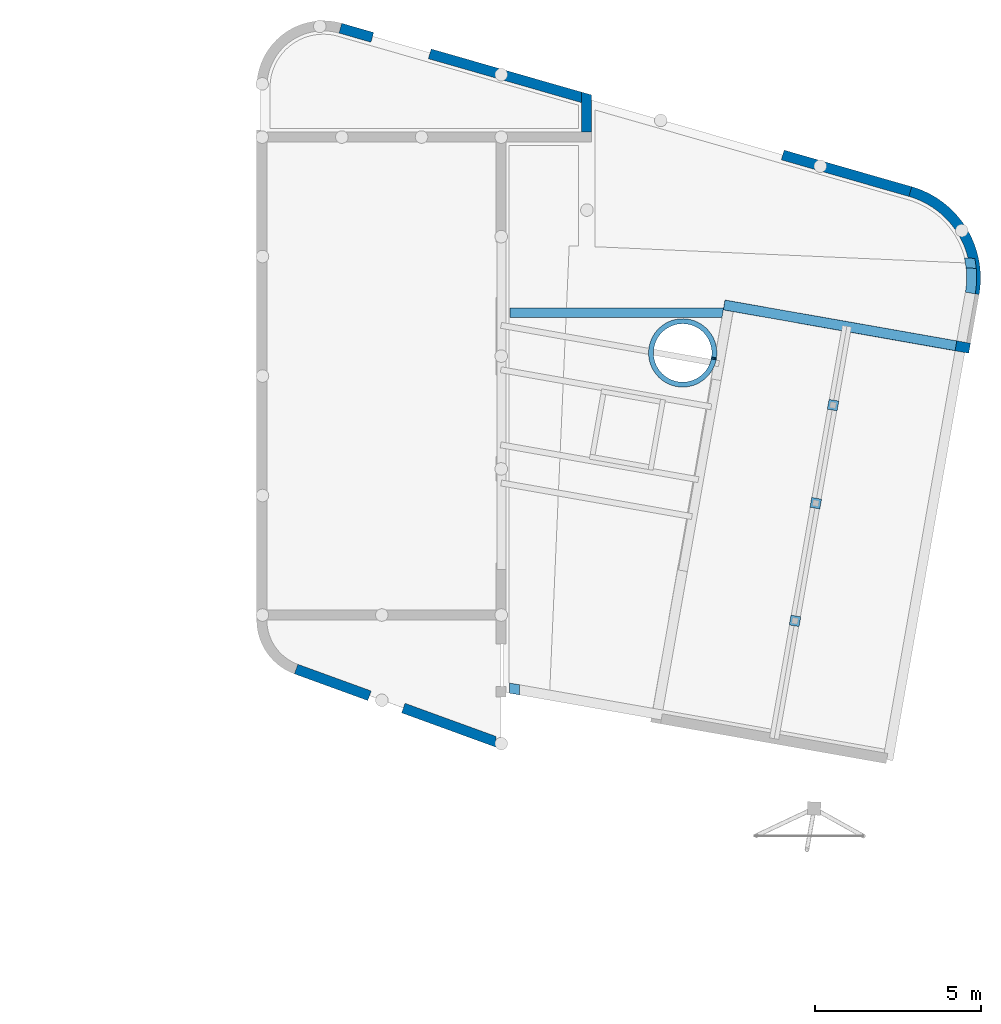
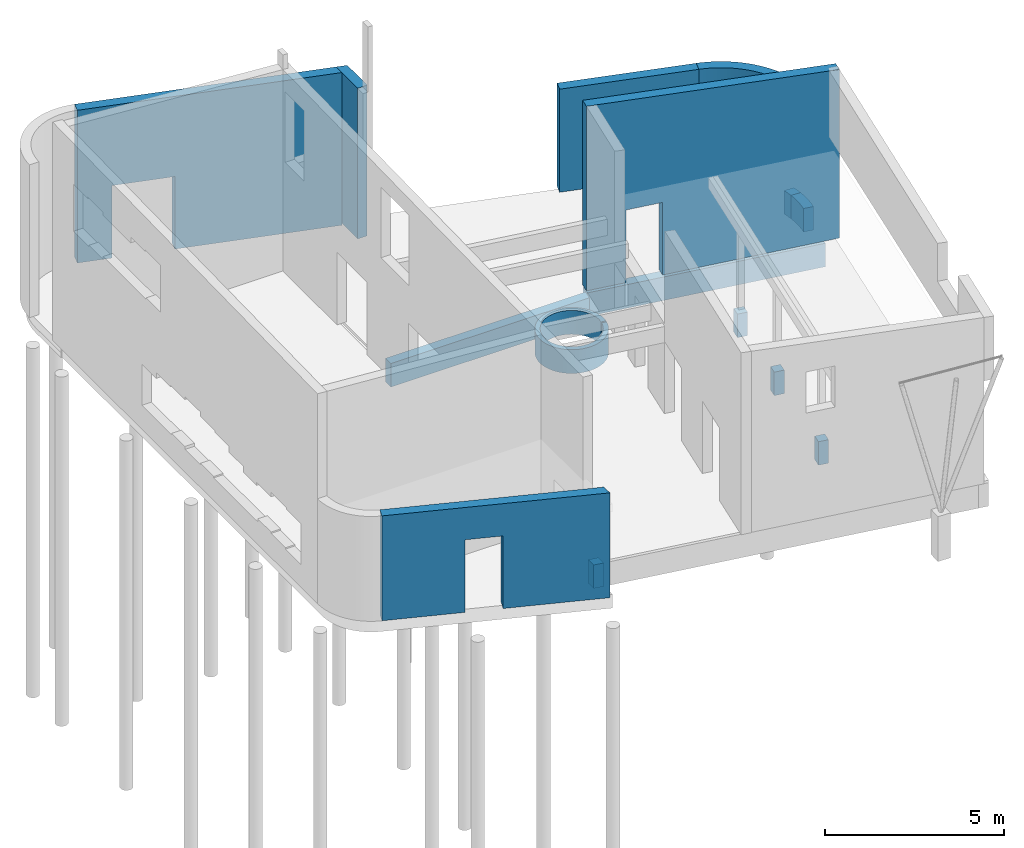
# One storey, part 3 of 3: 16 walls, 3 openings.
"""IFC2X3 building model written with IfcOpenShell, lengths in millimetres."""

from ifc_helpers import new_model, entity, si_unit, converted_unit, derived_unit, direction, frame, frame_2d, origin, place, context, subcontext, project, spatial, polyline, circle_curve, parameter, trimmed, segment, composite_curve, rectangle, outline, extrude, clip, bounded_halfspace, faceted_brep, material, layer, layer_set, layer_usage, type_object, element, save


model = new_model("IFC2X3")

# Units and contexts
model_context = context("Model", 3, precision=0.01, world=origin(), true_north=direction((6.12303176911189e-17, 1.0)))
context_of_model = context(None, 3, precision=0.01, world=origin(), true_north=direction((6.12303176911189e-17, 1.0)))
body_context = subcontext(model_context, "Body", "Model", "MODEL_VIEW")
ifc_project = project(units=[si_unit("LENGTHUNIT", "METRE", prefix="MILLI"), si_unit("AREAUNIT", "SQUARE_METRE"), si_unit("VOLUMEUNIT", "CUBIC_METRE"), converted_unit("PLANEANGLEUNIT", "DEGREE", entity("IfcRatioMeasure", 0.0174532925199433), si_unit("PLANEANGLEUNIT", "RADIAN"), dimensions=[0, 0, 0, 0, 0, 0, 0]), si_unit("MASSUNIT", "GRAM", prefix="KILO"), derived_unit("MASSDENSITYUNIT", [(si_unit("MASSUNIT", "GRAM", prefix="KILO"), 1), (si_unit("LENGTHUNIT", "METRE"), -3)]), derived_unit("MOMENTOFINERTIAUNIT", [(si_unit("LENGTHUNIT", "METRE"), 4)]), si_unit("TIMEUNIT", "SECOND"), si_unit("FREQUENCYUNIT", "HERTZ"), si_unit("THERMODYNAMICTEMPERATUREUNIT", "DEGREE_CELSIUS"), derived_unit("THERMALTRANSMITTANCEUNIT", [(si_unit("MASSUNIT", "GRAM", prefix="KILO"), 1), (si_unit("THERMODYNAMICTEMPERATUREUNIT", "KELVIN"), -1), (si_unit("TIMEUNIT", "SECOND"), -3)]), derived_unit("VOLUMETRICFLOWRATEUNIT", [(si_unit("LENGTHUNIT", "METRE"), 3), (si_unit("TIMEUNIT", "SECOND"), -1)]), si_unit("ELECTRICCURRENTUNIT", "AMPERE"), si_unit("ELECTRICVOLTAGEUNIT", "VOLT"), si_unit("POWERUNIT", "WATT"), si_unit("FORCEUNIT", "NEWTON", prefix="KILO"), si_unit("ILLUMINANCEUNIT", "LUX"), si_unit("LUMINOUSFLUXUNIT", "LUMEN"), si_unit("LUMINOUSINTENSITYUNIT", "CANDELA"), derived_unit("USERDEFINED", [(si_unit("MASSUNIT", "GRAM", prefix="KILO"), -1), (si_unit("LENGTHUNIT", "METRE"), -2), (si_unit("TIMEUNIT", "SECOND"), 3), (si_unit("LUMINOUSFLUXUNIT", "LUMEN"), 1)]), derived_unit("LINEARVELOCITYUNIT", [(si_unit("LENGTHUNIT", "METRE"), 1), (si_unit("TIMEUNIT", "SECOND"), -1)]), si_unit("PRESSUREUNIT", "PASCAL"), derived_unit("USERDEFINED", [(si_unit("LENGTHUNIT", "METRE"), -2), (si_unit("MASSUNIT", "GRAM", prefix="KILO"), 1), (si_unit("TIMEUNIT", "SECOND"), -2)]), derived_unit("LINEARFORCEUNIT", [(si_unit("MASSUNIT", "GRAM", prefix="KILO"), 1), (si_unit("LENGTHUNIT", "METRE"), 1), (si_unit("TIMEUNIT", "SECOND"), -2), (si_unit("LENGTHUNIT", "METRE"), -1)]), derived_unit("PLANARFORCEUNIT", [(si_unit("MASSUNIT", "GRAM", prefix="KILO"), 1), (si_unit("LENGTHUNIT", "METRE"), 1), (si_unit("TIMEUNIT", "SECOND"), -2), (si_unit("LENGTHUNIT", "METRE"), -2)])], contexts=[model_context, context_of_model])

# Site, building, storey
site_placement = place(None, origin())
site = spatial("IfcSite", under=ifc_project, at=site_placement, Name="Default", CompositionType="ELEMENT")
building_placement = place(site_placement, origin())
building = spatial("IfcBuilding", under=site, at=building_placement, Name="IFc", CompositionType="ELEMENT")
storey_placement = place(building_placement, frame((0.0, 0.0, -70.0)))
storey = spatial("IfcBuildingStorey", under=building, at=storey_placement, Name="00 begane grond b.k. ruwe vloer", CompositionType="ELEMENT", Elevation=-70.0)

# Walls
ifc_material_1 = material(Name="IMd_underlayment")
ifc_layer_1 = layer(ifc_material_1, 18.0)
ifc_material_2 = material(Name="IMd_hout")
ifc_layer_2 = layer(ifc_material_2, 270.0)
ifc_layer_3 = layer(ifc_material_1, 18.0)
ifc_layer_set_1 = layer_set([ifc_layer_1, ifc_layer_2, ifc_layer_3], Name="Basic Wall:NLRS_28_WA HSB_d=271")
ifc_layer_usage_1 = layer_usage(ifc_layer_set_1, "AXIS2", "NEGATIVE", 153.0)
wall_type_1 = type_object("IfcWallType", Name="Basic Wall:NLRS_28_WA HSB_d=271", PredefinedType="STANDARD", material=ifc_layer_set_1)
wall_1_placement = place(storey_placement, frame((19759.6696056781, 24550.0, 70.0), z_axis=(0.0, 0.0, 1.0), x_axis=(0.0, 1.0, 0.0)))
element("IfcWallStandardCase", 1, at=wall_1_placement, inside=storey, type_object=wall_type_1, material=ifc_layer_usage_1, Name="Basic Wall:NLRS_28_WA HSB_d=271", ObjectType="Basic Wall:NLRS_28_WA HSB_d=271", context=body_context, shape_type="SweptSolid", body=[
    extrude(outline(polyline([(0.473272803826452, -556.489996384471), (318.816078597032, -556.489996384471), (-12.5768006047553, 598.680518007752), (-306.712550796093, 514.299474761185), (0.473272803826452, -556.489996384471)])), frame((578.936558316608, 0.0, 0.0), z_axis=(0.0, 0.0, 1.0), x_axis=(0.275755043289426, 0.96122794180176, 0.0)), (0.0, 0.0, 1.0), 5129.99999999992),
])
wall_2_placement = place(storey_placement, frame((17077.3165004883, 6159.10750160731, 0.0), z_axis=(0.0, 0.0, 1.0), x_axis=(-0.939722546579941, 0.341937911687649, 0.0)))
element("IfcWall", 2, at=wall_2_placement, inside=storey, type_object=wall_type_1, Name="Basic Wall:NLRS_28_WA HSB_d=271", ObjectType="Basic Wall:NLRS_28_WA HSB_d=271", context=body_context, shape_type="Brep", body=[
    faceted_brep([(111.344567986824, -153.0, 3570.0), (111.344567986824, -153.0, 0.0), (3022.73798114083, -153.0, 0.0), (3022.73798114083, -153.0, 2470.0), (4106.73797699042, -153.0, 2470.0), (4106.73797699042, -153.0, 0.0), (6457.98108461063, -153.0, 0.0), (6457.98108461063, -153.0, 3570.0), (0.0, 153.0, 0.0), (0.0, 153.0, 60.0), (0.0, 153.0, 3560.0), (0.0, 153.0, 3570.0), (6457.98108461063, 153.0, 3570.0), (6457.98108461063, 153.0, 0.0), (4106.73797699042, 153.0, 0.0), (4106.73797699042, 153.0, 2470.0), (3022.73798114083, 153.0, 2470.0), (3022.73798114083, 153.0, 0.0)], [[[0, 1, 2, 3, 4, 5, 6, 7]], [[8, 9, 10, 11, 12, 13, 14, 15, 16, 17]], [[0, 11, 10, 9, 8, 1]], [[6, 5, 14, 13]], [[7, 6, 13, 12]], [[0, 7, 12, 11]], [[2, 1, 8, 17]], [[3, 2, 17, 16]], [[4, 3, 16, 15]], [[5, 4, 15, 14]]]),
])
wall_3_placement = place(storey_placement, frame((19648.8601273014, 25580.4905030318, 0.0), z_axis=(0.0, 0.0, 1.0), x_axis=(-0.961227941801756, 0.27575504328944, 0.0)))
element("IfcWall", 3, at=wall_3_placement, inside=storey, type_object=wall_type_1, Name="Basic Wall:NLRS_28_WA HSB_d=271", ObjectType="Basic Wall:NLRS_28_WA HSB_d=271", context=body_context, shape_type="Brep", body=[
    faceted_brep([(87.7846341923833, -153.0, 0.0), (4802.19558161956, -153.0, 0.0), (4802.19558161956, -153.0, 2470.0), (6602.19558161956, -153.0, 2470.0), (6602.19558161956, -153.0, 0.0), (7603.77169760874, -153.0, 0.0), (7603.77169760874, -153.0, 5200.0), (87.7846341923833, -153.0, 5200.0), (87.7846341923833, -153.0, 70.0), (0.0, 153.0, 0.0), (0.0, 153.0, 5200.0), (7603.77169760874, 153.0, 5200.0), (7603.77169760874, 153.0, 0.0), (6602.19558161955, 153.0, 0.0), (6602.19558161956, 153.0, 2470.0), (4802.19558161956, 153.0, 2470.0), (4802.19558161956, 153.0, 0.0)], [[[0, 1, 2, 3, 4, 5, 6, 7, 8]], [[9, 10, 11, 12, 13, 14, 15, 16]], [[1, 0, 9, 16]], [[6, 5, 12, 11]], [[7, 6, 11, 10]], [[2, 1, 16, 15]], [[3, 2, 15, 14]], [[4, 3, 14, 13]], [[5, 4, 13, 12]], [[0, 8, 7, 10, 9]]]),
])
ifc_layer_usage_2 = layer_usage(ifc_layer_set_1, "AXIS2", "NEGATIVE", 153.0)
wall_4_placement = place(storey_placement, frame((29512.2596546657, 22754.004053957, 60.0), z_axis=(0.0, 0.0, 1.0), x_axis=(-0.961261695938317, 0.275637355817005, 0.0)))
element("IfcWallStandardCase", 4, at=wall_4_placement, inside=storey, type_object=wall_type_1, material=ifc_layer_usage_2, Name="Basic Wall:NLRS_28_WA HSB_d=271", ObjectType="Basic Wall:NLRS_28_WA HSB_d=271", context=body_context, shape_type="SweptSolid", body=[
    extrude(rectangle(XDim=3999.90326540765, YDim=306.000000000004, at=frame_2d((1999.95163270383, 3.12638803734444e-13), x_axis=(-1.0, 0.0))), origin(), (0.0, 0.0, 1.0), 3509.99999999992),
])

# Wall, opening
ifc_layer_usage_3 = layer_usage(ifc_layer_set_1, "AXIS2", "NEGATIVE", 153.0)
wall_5_placement = place(storey_placement, frame((31298.7644464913, 18034.5306784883, 60.0), z_axis=(0.0, 0.0, 1.0), x_axis=(-0.984807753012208, 0.173648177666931, 0.0)))
wall_5 = element("IfcWallStandardCase", 5, at=wall_5_placement, inside=storey, type_object=wall_type_1, material=ifc_layer_usage_3, Name="Basic Wall:NLRS_28_WA HSB_d=271", ObjectType="Basic Wall:NLRS_28_WA HSB_d=271", context=body_context, shape_type="Clipping", body=[
    clip(extrude(rectangle(XDim=7511.58881505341, YDim=306.0, at=frame_2d((3755.7944075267, 0.0), x_axis=(-1.0, 0.0))), origin(), (0.0, 0.0, 1.0), 6284.69975053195), bounded_halfspace(frame((0.0101037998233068, -153.0, 5738.6161692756), z_axis=(0.0725054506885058, -0.00762051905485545, -0.997338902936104), x_axis=(0.991875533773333, -0.104248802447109, 0.0729048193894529)), True, frame((0.0101037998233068, -153.0, 5738.6161692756)), polyline([(0.0, 0.0), (7511.57871125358, 0.0), (7511.57871125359, 306.0), (7205.57871125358, 306.0), (305.989896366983, 306.0), (-0.0101037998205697, 306.0), (0.0, 0.0)]))),
])
opening_1_placement = place(wall_5_placement, origin())
element("IfcOpeningElement", 6, at=opening_1_placement, cuts=wall_5, Name="Basic Wall:NLRS_28_WA HSB_d=271", ObjectType="Opening", context=body_context, shape_type="SweptSolid", body=[
    extrude(rectangle(XDim=2470.00000000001, YDim=1083.99999999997, at=frame_2d((0.0, 0.0), x_axis=(0.0, 1.0))), frame((5795.27387890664, 153.0, 1235.0), z_axis=(0.0, -1.0, 0.0), x_axis=(1.0, 0.0, 0.0)), (0.0, 0.0, 1.0), 306.0),
])

# Walls
ifc_layer_usage_4 = layer_usage(ifc_layer_set_1, "AXIS2", "POSITIVE", -153.0)
wall_6_placement = place(storey_placement, frame((29512.2596848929, 22754.004159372, 60.0)))
element("IfcWallStandardCase", 7, at=wall_6_placement, inside=storey, type_object=wall_type_1, material=ifc_layer_usage_4, Name="Basic Wall:NLRS_28_WA HSB_d=271", ObjectType="Basic Wall:NLRS_28_WA HSB_d=271", context=body_context, shape_type="SweptSolid", body=[
    extrude(outline(composite_curve([segment(trimmed(circle_curve(frame_2d((-746.701596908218, -2604.05793429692), x_axis=(1.0, 0.0)), 2862.0), [parameter(350.001891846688)], [parameter(74.0000000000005)], True, "PARAMETER"), True, "CONTINUOUS"), segment(polyline([(42.1725154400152, 147.073039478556), (-42.1725154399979, -147.073039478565)]), True, "CONTINUOUS"), segment(trimmed(circle_curve(frame_2d((-746.701596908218, -2604.05793429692), x_axis=(1.0, 0.0)), 2556.0), [parameter(350.001891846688)], [parameter(74.0000000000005)], True, "PARAMETER"), False, "CONTINUOUS"), segment(polyline([(1770.48167370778, -3047.81956189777), (2071.83460047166, -3100.9459539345)]), True, "CONTINUOUS")], self_intersect=False)), origin(), (0.0, 0.0, 1.0), 3509.99999999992),
])
ifc_material_3 = material(Name="IMd_beton_prefab")
ifc_layer_4 = layer(ifc_material_3, 300.0)
ifc_layer_set_2 = layer_set([ifc_layer_4], Name="Basic Wall:NLRS_16_WA Funderingsbalk_beton_prefab_300x800")
ifc_layer_usage_5 = layer_usage(ifc_layer_set_2, "AXIS2", "NEGATIVE", 150.0)
wall_type_2 = type_object("IfcWallType", Name="Basic Wall:NLRS_16_WA Funderingsbalk_beton_prefab_300x800", PredefinedType="STANDARD", material=ifc_layer_set_2)
wall_7_placement = place(storey_placement, frame((23904.2418366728, 19338.3474189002, -820.0), z_axis=(0.0, 0.0, 1.0), x_axis=(0.984850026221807, -0.173408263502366, 0.0)))
element("IfcWallStandardCase", 8, at=wall_7_placement, inside=storey, type_object=wall_type_2, material=ifc_layer_usage_5, Name="Basic Wall:NLRS_16_WA Funderingsbalk_beton_prefab_300x800", ObjectType="Basic Wall:NLRS_16_WA Funderingsbalk_beton_prefab_300x800", context=body_context, shape_type="SweptSolid", body=[
    extrude(outline(polyline([(7090.55211074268, -150.0), (7090.61528805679, 150.0), (0.0, 150.0), (0.0, -86.0273430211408), (0.0, -150.0), (300.0, -150.0), (7090.55211074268, -150.0)])), origin(), (0.0, 0.0, 1.0), 800.0),
])
ifc_layer_usage_6 = layer_usage(ifc_layer_set_2, "AXIS2", "POSITIVE", -150.0)
wall_8_placement = place(storey_placement, frame((31344.3780423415, 20469.9798954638, -820.0)))
element("IfcWallStandardCase", 9, at=wall_8_placement, inside=storey, type_object=wall_type_2, material=ifc_layer_usage_6, Name="Basic Wall:NLRS_16_WA Funderingsbalk_beton_prefab_300x800", ObjectType="Basic Wall:NLRS_16_WA Funderingsbalk_beton_prefab_300x800", context=body_context, shape_type="SweptSolid", body=[
    extrude(outline(composite_curve([segment(trimmed(circle_curve(frame_2d((-2692.23049711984, -300.958386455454), x_axis=(1.0, 0.0)), 2859.0), [parameter(350.001891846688)], [parameter(5.44015134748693)], True, "PARAMETER"), True, "CONTINUOUS"), segment(polyline([(153.891913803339, -29.908165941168), (-149.07145609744, -16.6643624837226)]), True, "CONTINUOUS"), segment(trimmed(circle_curve(frame_2d((-2692.23049711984, -300.958386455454), x_axis=(1.0, 0.0)), 2559.0), [parameter(350.001891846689)], [parameter(6.37848459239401)], True, "PARAMETER"), False, "CONTINUOUS"), segment(polyline([(-172.09278604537, -745.24086103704), (123.351259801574, -797.325559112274)]), True, "CONTINUOUS")], self_intersect=False)), origin(), (0.0, 0.0, 1.0), 800.0),
])
ifc_layer_usage_7 = layer_usage(ifc_layer_set_2, "AXIS2", "NEGATIVE", 150.0)
wall_9_placement = place(storey_placement, frame((27158.8635610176, 16172.1722400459, -820.0), z_axis=(0.0, 0.0, 1.0), x_axis=(0.173408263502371, 0.984850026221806, 0.0)))
element("IfcWallStandardCase", 10, at=wall_9_placement, inside=storey, type_object=wall_type_2, material=ifc_layer_usage_7, Name="Basic Wall:NLRS_16_WA Funderingsbalk_beton_prefab_300x800", ObjectType="Basic Wall:NLRS_16_WA Funderingsbalk_beton_prefab_300x800", context=body_context, shape_type="SweptSolid", body=[
    extrude(rectangle(XDim=299.999999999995, YDim=299.999999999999, at=frame_2d((149.999999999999, 8.81072992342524e-13), x_axis=(-1.0, 0.0))), origin(), (0.0, 0.0, 1.0), 800.0),
])
ifc_layer_usage_8 = layer_usage(ifc_layer_set_2, "AXIS2", "NEGATIVE", 150.0)
wall_10_placement = place(storey_placement, frame((26637.9190280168, 13217.7489810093, -820.0), z_axis=(0.0, 0.0, 1.0), x_axis=(0.173408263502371, 0.984850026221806, 0.0)))
element("IfcWallStandardCase", 11, at=wall_10_placement, inside=storey, type_object=wall_type_2, material=ifc_layer_usage_8, Name="Basic Wall:NLRS_16_WA Funderingsbalk_beton_prefab_300x800", ObjectType="Basic Wall:NLRS_16_WA Funderingsbalk_beton_prefab_300x800", context=body_context, shape_type="SweptSolid", body=[
    extrude(rectangle(XDim=300.000000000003, YDim=300.0, at=frame_2d((150.000000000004, 1.63424829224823e-12), x_axis=(-1.0, 0.0))), origin(), (0.0, 0.0, 1.0), 800.0),
])
ifc_layer_usage_9 = layer_usage(ifc_layer_set_2, "AXIS2", "NEGATIVE", 150.0)
wall_11_placement = place(storey_placement, frame((26012.7855884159, 9672.44107016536, -820.0), z_axis=(0.0, 0.0, 1.0), x_axis=(0.173408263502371, 0.984850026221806, 0.0)))
element("IfcWallStandardCase", 12, at=wall_11_placement, inside=storey, type_object=wall_type_2, material=ifc_layer_usage_9, Name="Basic Wall:NLRS_16_WA Funderingsbalk_beton_prefab_300x800", ObjectType="Basic Wall:NLRS_16_WA Funderingsbalk_beton_prefab_300x800", context=body_context, shape_type="SweptSolid", body=[
    extrude(rectangle(XDim=299.999999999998, YDim=299.999999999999, at=frame_2d((150.000000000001, 1.16529008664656e-12), x_axis=(-1.0, 0.0))), origin(), (0.0, 0.0, 1.0), 800.0),
])

# Wall, opening
ifc_layer_usage_10 = layer_usage(ifc_layer_set_2, "AXIS2", "NEGATIVE", 150.0)
wall_12_placement = place(storey_placement, frame((31139.364782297, 20605.9042360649, -820.0), z_axis=(0.0, 0.0, 1.0), x_axis=(0.999045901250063, -0.0436724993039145, 0.0)))
wall_12 = element("IfcWallStandardCase", 13, at=wall_12_placement, inside=storey, type_object=wall_type_2, material=ifc_layer_usage_10, Name="Basic Wall:NLRS_16_WA Funderingsbalk_beton_prefab_300x800", ObjectType="Basic Wall:NLRS_16_WA Funderingsbalk_beton_prefab_300x800", context=body_context, shape_type="SweptSolid", body=[
    extrude(outline(composite_curve([segment(polyline([(307.452557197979, 150.0), (0.0, 150.0)]), True, "CONTINUOUS"), segment(polyline([(0.0, 150.0), (62.5111492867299, -150.0)]), True, "CONTINUOUS"), segment(polyline([(62.5111492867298, -150.0), (365.805062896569, -150.0)]), True, "CONTINUOUS"), segment(trimmed(circle_curve(frame_2d((-2465.76442562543, -545.08889084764), x_axis=(0.999045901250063, 0.0436724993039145)), 2859.0), [parameter(5.44015134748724)], [parameter(11.5678947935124)], True, "PARAMETER"), True, "CONTINUOUS")], self_intersect=False)), origin(), (0.0, 0.0, 1.0), 800.0),
])
opening_2_placement = place(wall_12_placement, origin())
element("IfcOpeningElement", 14, at=opening_2_placement, cuts=wall_12, Name="Basic Wall:NLRS_16_WA Funderingsbalk_beton_prefab_300x800", ObjectType="Opening", context=body_context, shape_type="SweptSolid", body=[
    extrude(rectangle(XDim=1000.0, YDim=160.0, at=frame_2d((0.0, -3.48165940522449e-13), x_axis=(1.0, 0.0))), frame((8.85226316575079, -284.661057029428, 470.0), z_axis=(-0.203989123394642, 0.978973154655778, 0.0), x_axis=(0.0, 0.0, 1.0)), (0.0, 0.0, 1.0), 454.55791906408),
])

ifc_layer_usage_11 = layer_usage(ifc_layer_set_2, "AXIS2", "NEGATIVE", 150.0)
wall_13_placement = place(storey_placement, frame((17590.4846991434, 7589.21340909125, -820.0), z_axis=(0.0, 0.0, 1.0), x_axis=(0.0, 1.0, 0.0)))
wall_13 = element("IfcWallStandardCase", 15, at=wall_13_placement, inside=storey, type_object=wall_type_2, material=ifc_layer_usage_11, Name="Basic Wall:NLRS_16_WA Funderingsbalk_beton_prefab_300x800", ObjectType="Basic Wall:NLRS_16_WA Funderingsbalk_beton_prefab_300x800", context=body_context, shape_type="SweptSolid", body=[
    extrude(outline(polyline([(357.526077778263, 150.0), (52.8980942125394, 150.0), (0.0, -150.0), (304.627983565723, -150.0), (357.526077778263, 150.0)])), origin(), (0.0, 0.0, 1.0), 800.0),
])
opening_3_placement = place(wall_13_placement, origin())
element("IfcOpeningElement", 16, at=opening_3_placement, cuts=wall_13, Name="Basic Wall:NLRS_16_WA Funderingsbalk_beton_prefab_300x800", ObjectType="Opening", context=body_context, shape_type="SweptSolid", body=[
    extrude(rectangle(XDim=1000.0, YDim=140.0, at=frame_2d((0.0, 7.17648163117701e-13), x_axis=(1.0, 0.0))), frame((-112.122195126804, -382.76263297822, 470.0), z_axis=(0.173648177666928, 0.984807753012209, 0.0), x_axis=(0.0, 0.0, 1.0)), (0.0, 0.0, 1.0), 590.0),
])

# Walls
ifc_layer_usage_12 = layer_usage(ifc_layer_set_2, "AXIS2", "NEGATIVE", 150.0)
wall_14_placement = place(storey_placement, frame((17445.0, 19103.62338787, -820.0)))
element("IfcWallStandardCase", 17, at=wall_14_placement, inside=storey, type_object=wall_type_2, material=ifc_layer_usage_12, Name="Basic Wall:NLRS_16_WA Funderingsbalk_beton_prefab_300x800", ObjectType="Basic Wall:NLRS_16_WA Funderingsbalk_beton_prefab_300x800", context=body_context, shape_type="SweptSolid", body=[
    extrude(outline(polyline([(6391.50124229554, -150.0), (6433.23059714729, 86.9965270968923), (6444.32398450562, 150.0), (0.0, 150.0), (0.0, -150.0), (6391.50124229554, -150.0)])), origin(), (0.0, 0.0, 1.0), 800.0),
])
ifc_layer_5 = layer(ifc_material_3, 150.0)
ifc_layer_set_3 = layer_set([ifc_layer_5], Name="Basic Wall:NLRS_16_WA Funderingsbalk_beton_prefab_150x810")
ifc_layer_usage_13 = layer_usage(ifc_layer_set_3, "AXIS2", "NEGATIVE", 75.0)
wall_type_3 = type_object("IfcWallType", Name="Basic Wall:NLRS_16_WA Funderingsbalk_beton_prefab_150x810", PredefinedType="STANDARD", material=ifc_layer_set_3)
wall_15_placement = place(storey_placement, frame((23598.5390452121, 17750.7490171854, -820.0), z_axis=(0.0, 0.0, 1.0), x_axis=(0.999999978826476, 0.000205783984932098, 0.0)))
element("IfcWallStandardCase", 18, at=wall_15_placement, inside=storey, type_object=wall_type_3, material=ifc_layer_usage_13, Name="Basic Wall:NLRS_16_WA Funderingsbalk_beton_prefab_150x810", ObjectType="Basic Wall:NLRS_16_WA Funderingsbalk_beton_prefab_150x810", context=body_context, shape_type="SweptSolid", body=[
    extrude(outline(composite_curve([segment(trimmed(circle_curve(frame_2d((-944.216718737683, 143.107610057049), x_axis=(1.0, 0.0)), 880.0), [parameter(351.495814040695)], [parameter(348.480604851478)], True, "PARAMETER"), False, "CONTINUOUS"), segment(polyline([(-73.8922642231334, 12.97174307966), (74.1531454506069, -11.2388175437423)]), True, "CONTINUOUS"), segment(polyline([(74.1531454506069, -11.2388175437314), (84.2449452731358, 86.8350087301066)]), True, "CONTINUOUS"), segment(polyline([(84.2449452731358, 86.8350087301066), (84.9143344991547, 185.407435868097)]), True, "CONTINUOUS"), segment(polyline([(84.9143344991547, 185.407435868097), (76.1539194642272, 283.597913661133)]), True, "CONTINUOUS"), segment(polyline([(76.1539194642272, 283.597913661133), (54.8556749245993, 393.615797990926)]), True, "CONTINUOUS"), segment(polyline([(54.8556749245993, 393.615797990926), (21.7263793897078, 500.674290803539)]), True, "CONTINUOUS"), segment(polyline([(21.7263793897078, 500.674290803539), (-22.837873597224, 603.499859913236)]), True, "CONTINUOUS"), segment(polyline([(-22.837873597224, 603.499859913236), (-78.3095257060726, 700.875243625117)]), True, "CONTINUOUS"), segment(polyline([(-78.3095257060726, 700.875243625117), (-144.031895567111, 791.647700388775)]), True, "CONTINUOUS"), segment(polyline([(-144.031895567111, 791.647700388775), (-219.22695266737, 874.742655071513)]), True, "CONTINUOUS"), segment(polyline([(-219.22695266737, 874.742655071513), (-303.004527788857, 949.176419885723)]), True, "CONTINUOUS"), segment(polyline([(-303.004527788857, 949.176419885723), (-394.372850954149, 1014.06783937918)]), True, "CONTINUOUS"), segment(polyline([(-394.372850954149, 1014.06783937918), (-492.250292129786, 1068.6487216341)]), True, "CONTINUOUS"), segment(polyline([(-492.250292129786, 1068.6487216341), (-595.478165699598, 1112.27293218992)]), True, "CONTINUOUS"), segment(polyline([(-595.478165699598, 1112.27293218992), (-702.834447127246, 1144.42404303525)]), True, "CONTINUOUS"), segment(polyline([(-702.834447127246, 1144.42404303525), (-813.048239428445, 1164.72144612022)]), True, "CONTINUOUS"), segment(polyline([(-813.048239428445, 1164.72144612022), (-924.814818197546, 1172.924859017)]), True, "CONTINUOUS"), segment(polyline([(-924.814818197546, 1172.924859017), (-1036.81107708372, 1168.93716939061)]), True, "CONTINUOUS"), segment(polyline([(-1036.81107708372, 1168.93716939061), (-1147.71119087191, 1152.80558460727)]), True, "CONTINUOUS"), segment(polyline([(-1147.71119087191, 1152.80558460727), (-1256.20231074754, 1124.72107287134)]), True, "CONTINUOUS"), segment(polyline([(-1256.20231074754, 1124.72107287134), (-1361.00010594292, 1085.01610250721)]), True, "CONTINUOUS"), segment(polyline([(-1361.00010594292, 1085.01610250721), (-1460.86396778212, 1034.16070614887)]), True, "CONTINUOUS"), segment(polyline([(-1460.86396778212, 1034.16070614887), (-1554.61169613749, 972.756916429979)]), True, "CONTINUOUS"), segment(polyline([(-1554.61169613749, 972.756916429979), (-1641.13349443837, 901.531639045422)]), True, "CONTINUOUS"), segment(polyline([(-1641.13349443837, 901.531639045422), (-1719.40510755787, 821.328047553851)]), True, "CONTINUOUS"), segment(polyline([(-1719.40510755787, 821.328047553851), (-1788.49994705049, 733.095601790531)]), True, "CONTINUOUS"), segment(polyline([(-1788.49994705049, 733.095601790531), (-1847.60006020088, 637.878808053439)]), True, "CONTINUOUS"), segment(polyline([(-1847.60006020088, 637.878808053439), (-1896.00581303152, 536.804854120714)]), True, "CONTINUOUS"), segment(polyline([(-1896.00581303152, 536.804854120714), (-1933.14417264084, 431.070265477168)]), True, "CONTINUOUS"), segment(polyline([(-1933.14417264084, 431.070265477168), (-1958.57549082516, 321.926740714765)]), True, "CONTINUOUS"), segment(polyline([(-1958.57549082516, 321.926740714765), (-1971.99870867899, 210.666333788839)]), True, "CONTINUOUS"), segment(polyline([(-1971.99870867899, 210.666333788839), (-1973.2549205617, 98.6061585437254)]), True, "CONTINUOUS"), segment(polyline([(-1973.2549205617, 98.6061585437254), (-1962.32925523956, -12.9272034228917)]), True, "CONTINUOUS"), segment(polyline([(-1962.32925523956, -12.9272034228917), (-1939.35105193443, -122.613406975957)]), True, "CONTINUOUS"), segment(polyline([(-1939.35105193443, -122.613406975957), (-1904.59232919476, -229.153973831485)]), True, "CONTINUOUS"), segment(polyline([(-1904.59232919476, -229.153973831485), (-1858.46456471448, -331.287664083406)]), True, "CONTINUOUS"), segment(polyline([(-1858.46456471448, -331.287664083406), (-1801.51382422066, -427.805406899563)]), True, "CONTINUOUS"), segment(polyline([(-1801.51382422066, -427.805406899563), (-1734.4142970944, -517.564613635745)]), True, "CONTINUOUS"), segment(polyline([(-1734.4142970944, -517.564613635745), (-1657.96031525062, -599.502703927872)]), True, "CONTINUOUS"), segment(polyline([(-1657.96031525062, -599.502703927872), (-1573.05694975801, -672.649684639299)]), True, "CONTINUOUS"), segment(polyline([(-1573.05694975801, -672.649684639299), (-1480.709296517, -736.139632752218)]), True, "CONTINUOUS"), segment(polyline([(-1480.709296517, -736.139632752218), (-1382.01057783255, -789.220946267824)]), True, "CONTINUOUS"), segment(polyline([(-1382.01057783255, -789.220946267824), (-1278.1292007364, -831.265241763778)]), True, "CONTINUOUS"), segment(polyline([(-1278.1292007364, -831.265241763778), (-1170.29492526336, -861.774793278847)]), True, "CONTINUOUS"), segment(polyline([(-1170.29492526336, -861.774793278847), (-1059.78430642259, -880.388424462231)]), True, "CONTINUOUS"), segment(polyline([(-1059.78430642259, -880.388424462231), (-947.905582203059, -886.885784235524)]), True, "CONTINUOUS"), segment(polyline([(-947.905582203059, -886.885784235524), (-835.983186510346, -881.189955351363)]), True, "CONTINUOUS"), segment(polyline([(-835.983186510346, -881.189955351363), (-725.342070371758, -863.368364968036)]), True, "CONTINUOUS"), segment(polyline([(-725.342070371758, -863.368364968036), (-617.292017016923, -833.63198646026)]), True, "CONTINUOUS"), segment(polyline([(-617.292017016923, -833.63198646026), (-513.112136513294, -792.332841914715)]), True, "CONTINUOUS"), segment(polyline([(-513.112136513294, -792.332841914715), (-414.035723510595, -739.959834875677)]), True, "CONTINUOUS"), segment(polyline([(-414.035723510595, -739.959834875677), (-321.235657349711, -677.132962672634)]), True, "CONTINUOUS"), segment(polyline([(-321.235657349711, -677.132962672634), (-235.810517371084, -604.595976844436)]), True, "CONTINUOUS"), segment(polyline([(-235.810517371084, -604.595976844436), (-158.771577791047, -523.207578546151)]), True, "CONTINUOUS"), segment(polyline([(-158.771577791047, -523.207578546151), (-91.0308361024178, -433.931253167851)]), True, "CONTINUOUS"), segment(polyline([(-91.0308361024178, -433.931253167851), (-33.3959214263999, -337.828124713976)]), True, "CONTINUOUS"), segment(polyline([(-33.3959214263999, -337.828124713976), (8.34877326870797, -248.707376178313)]), True, "CONTINUOUS"), segment(polyline([(8.34877326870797, -248.707376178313), (41.3929359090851, -156.013784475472)]), True, "CONTINUOUS"), segment(polyline([(41.3929359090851, -156.013784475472), (65.443772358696, -60.5727589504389)]), True, "CONTINUOUS"), segment(polyline([(65.4437723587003, -60.5727589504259), (-81.9424174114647, -32.6280700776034)]), True, "CONTINUOUS")], self_intersect=False)), origin(), (0.0, 0.0, 1.0), 810.000000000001),
])
ifc_layer_usage_14 = layer_usage(ifc_layer_set_3, "AXIS2", "NEGATIVE", 75.0)
wall_16_placement = place(storey_placement, frame((23590.1346996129, 17703.2133401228, -820.0), z_axis=(0.0, 0.0, 1.0), x_axis=(0.173648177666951, 0.984807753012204, 0.0)))
element("IfcWallStandardCase", 19, at=wall_16_placement, inside=storey, type_object=wall_type_3, material=ifc_layer_usage_14, Name="Basic Wall:NLRS_16_WA Funderingsbalk_beton_prefab_150x810", ObjectType="Basic Wall:NLRS_16_WA Funderingsbalk_beton_prefab_150x810", context=body_context, shape_type="SweptSolid", body=[
    extrude(outline(polyline([(50.0968158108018, -75.0), (48.200880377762, 75.0), (1.89593543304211, 75.0), (0.0, -75.0), (50.0968158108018, -75.0)])), origin(), (0.0, 0.0, 1.0), 810.0),
])

save(model, "model.ifc")
